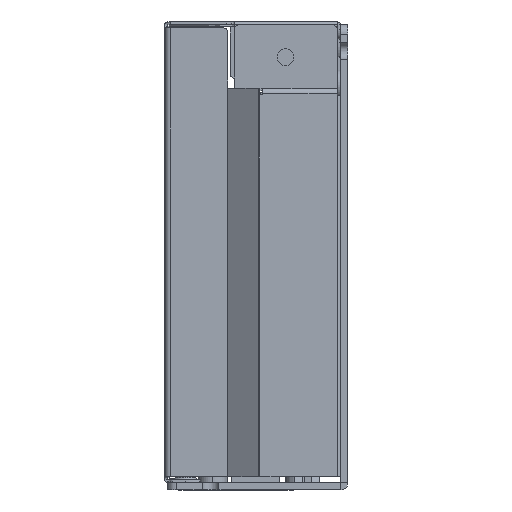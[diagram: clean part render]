
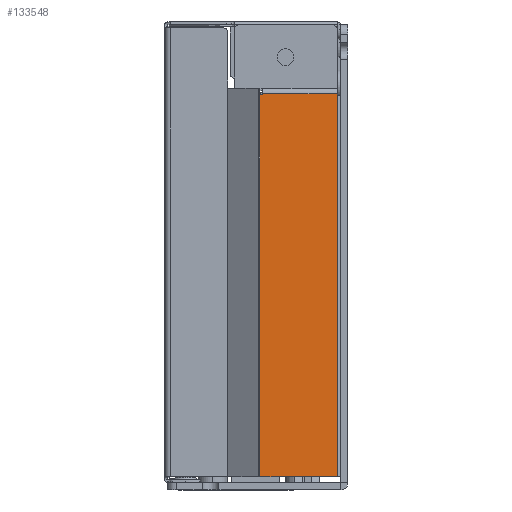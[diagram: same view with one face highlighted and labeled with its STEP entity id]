
A CAD part, left-side view. The second image highlights one B-rep face of the part: STEP entity #133548.
In plain terms, the highlighted planar face has unit normal (-1, 0, 0).
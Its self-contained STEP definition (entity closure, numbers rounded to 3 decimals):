
#83977=DIRECTION('',(0.,0.,-1.));
#83978=VECTOR('',#83977,16.173);
#83979=CARTESIAN_POINT('',(-38.45,46.45,-19.727));
#83980=LINE('',#83979,#83978);
#84240=DIRECTION('',(0.,-1.,0.));
#84241=VECTOR('',#84240,79.1);
#84242=CARTESIAN_POINT('',(-38.45,46.45,-35.9));
#84243=LINE('',#84242,#84241);
#84263=DIRECTION('',(0.,1.,0.));
#84264=VECTOR('',#84263,79.4);
#84265=CARTESIAN_POINT('',(-38.45,-32.95,-19.727));
#84266=LINE('',#84265,#84264);
#84270=CARTESIAN_POINT('',(-38.45,-33.15,-20.027));
#84271=DIRECTION('',(-1.,0.,0.));
#84272=DIRECTION('',(0.,0.667,0.745));
#84273=AXIS2_PLACEMENT_3D('',#84270,#84271,#84272);
#84278=DIRECTION('',(0.,1.,0.));
#84279=VECTOR('',#84278,0.3);
#84280=CARTESIAN_POINT('',(-38.45,-32.95,-35.8));
#84281=LINE('',#84280,#84279);
#84285=DIRECTION('',(0.,0.,1.));
#84286=VECTOR('',#84285,0.1);
#84287=CARTESIAN_POINT('',(-38.45,-32.65,-35.9));
#84288=LINE('',#84287,#84286);
#84309=DIRECTION('',(0.,0.,-1.));
#84310=VECTOR('',#84309,0.076);
#84311=CARTESIAN_POINT('',(-38.45,-32.95,-19.727));
#84312=LINE('',#84311,#84310);
#84332=DIRECTION('',(0.,0.,-1.));
#84333=VECTOR('',#84332,15.549);
#84334=CARTESIAN_POINT('',(-38.45,-32.95,-20.251));
#84335=LINE('',#84334,#84333);
#85501=CARTESIAN_POINT('',(-38.45,46.45,-19.727));
#85502=VERTEX_POINT('',#85501);
#85509=CARTESIAN_POINT('',(-38.45,-32.95,-19.727));
#85510=VERTEX_POINT('',#85509);
#85545=CARTESIAN_POINT('',(-38.45,-32.65,-35.9));
#85546=VERTEX_POINT('',#85545);
#85547=CARTESIAN_POINT('',(-38.45,46.45,-35.9));
#85548=VERTEX_POINT('',#85547);
#85565=CARTESIAN_POINT('',(-38.45,-32.95,-19.803));
#85566=CARTESIAN_POINT('',(-38.45,-32.95,-20.251));
#85567=VERTEX_POINT('',#85565);
#85568=VERTEX_POINT('',#85566);
#85594=CARTESIAN_POINT('',(-38.45,-32.95,-35.8));
#85595=VERTEX_POINT('',#85594);
#85868=CARTESIAN_POINT('',(-38.45,-32.65,-35.8));
#85869=VERTEX_POINT('',#85868);
#133528=CARTESIAN_POINT('',(-38.45,-46.65,-19.727));
#133529=DIRECTION('',(1.,0.,0.));
#133530=DIRECTION('',(0.,0.,-1.));
#133531=AXIS2_PLACEMENT_3D('',#133528,#133529,#133530);
#133532=PLANE('',#133531);
#133533=ORIENTED_EDGE('',*,*,#133519,.F.);
#133534=ORIENTED_EDGE('',*,*,#133363,.F.);
#133535=ORIENTED_EDGE('',*,*,#133304,.F.);
#133537=ORIENTED_EDGE('',*,*,#133536,.T.);
#133539=ORIENTED_EDGE('',*,*,#133538,.T.);
#133541=ORIENTED_EDGE('',*,*,#133540,.T.);
#133543=ORIENTED_EDGE('',*,*,#133542,.T.);
#133545=ORIENTED_EDGE('',*,*,#133544,.F.);
#133546=EDGE_LOOP('',(#133533,#133534,#133535,#133537,#133539,#133541,#133543,
#133545));
#133547=FACE_OUTER_BOUND('',#133546,.F.);
#84274=CIRCLE('',#84273,0.3);
#133304=EDGE_CURVE('',#85510,#85502,#84266,.T.);
#133363=EDGE_CURVE('',#85502,#85548,#83980,.T.);
#133519=EDGE_CURVE('',#85548,#85546,#84243,.T.);
#133536=EDGE_CURVE('',#85510,#85567,#84312,.T.);
#133538=EDGE_CURVE('',#85567,#85568,#84274,.T.);
#133540=EDGE_CURVE('',#85568,#85595,#84335,.T.);
#133542=EDGE_CURVE('',#85595,#85869,#84281,.T.);
#133544=EDGE_CURVE('',#85546,#85869,#84288,.T.);
#133548=ADVANCED_FACE('',(#133547),#133532,.F.);
